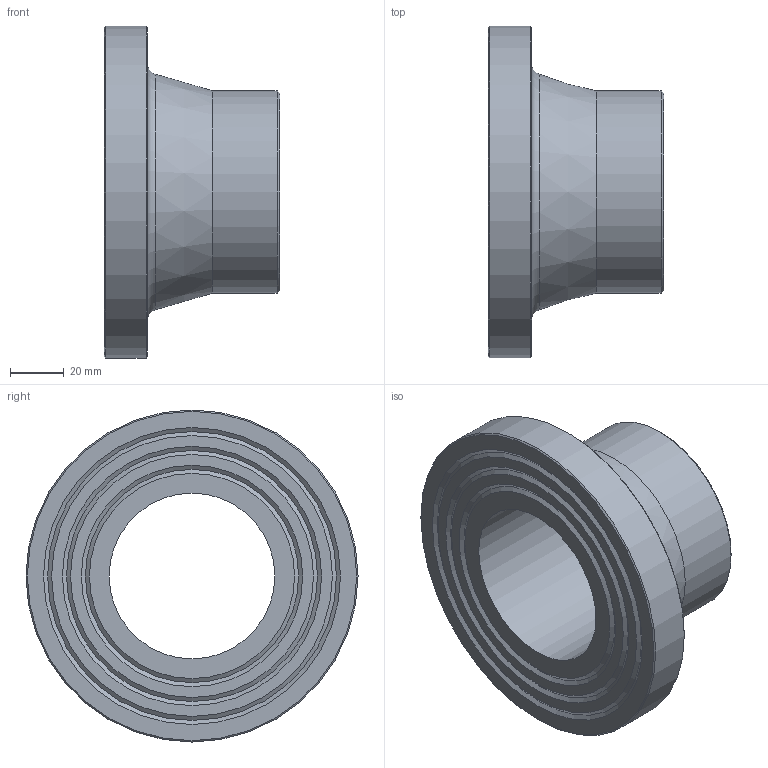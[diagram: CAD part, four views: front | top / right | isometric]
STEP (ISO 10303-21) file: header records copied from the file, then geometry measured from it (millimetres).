
FILE_DESCRIPTION(/* description */ ('Unknown'),/* implementation_level */ '2;1');
FILE_NAME(/* name */ 'CCP075C',/* time_stamp */ '2022-04-04T14:39:26+02:00',/* author */ ('Unknown'),/* organization */ ('Unknown'),/* preprocessor_version */ 'ST-DEVELOPER v18.1',/* originating_system */ 'Solid Edge',/* authorisation */ 'Unknown');
FILE_SCHEMA (('AUTOMOTIVE_DESIGN {1 0 10303 214 3 1 1}'));
Length unit declared in the file: millimetre
Products named in the file (1): CCP075C
Bounding box: 65 x 123 x 123 mm (x, y, z)
Volume: 233977.8 mm3; surface area: 47122 mm2
Topology: 1 solids, 1 shells, 20 faces, 35 edges, 21 vertices
Faces by surface type: cone 10, plane 6, cylinder 3, torus 1
Full cylindrical faces by diameter (mm): 61.4 x1, 75 x1, 123 x1
Entity records: 438 total; most frequent: DIRECTION 82, CARTESIAN_POINT 61, AXIS2_PLACEMENT_3D 41, ORIENTED_EDGE 40, EDGE_LOOP 40, FACE_BOUND 40, EDGE_CURVE 20, VERTEX_POINT 20
